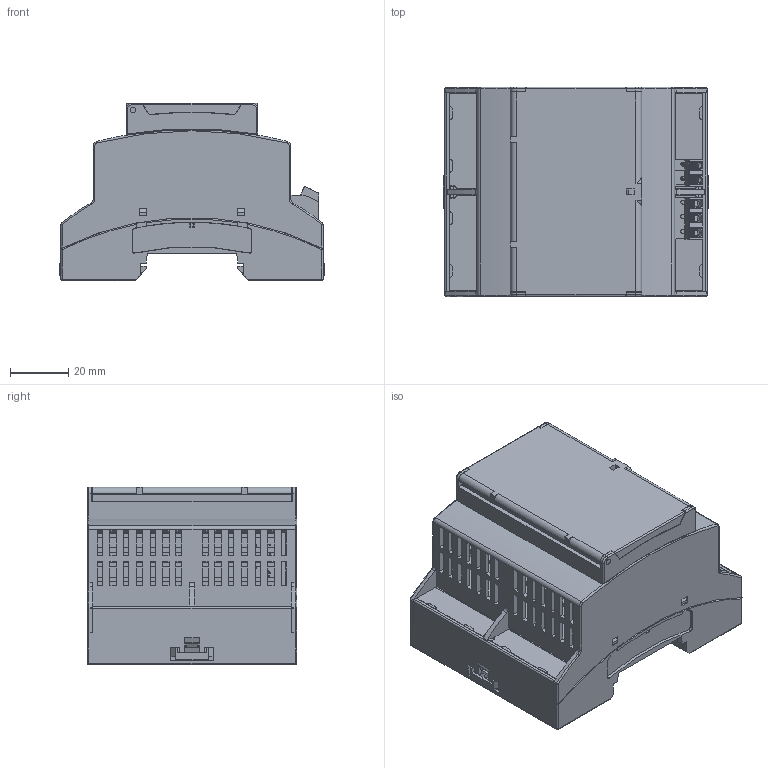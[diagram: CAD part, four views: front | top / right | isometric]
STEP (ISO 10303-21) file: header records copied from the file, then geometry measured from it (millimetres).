
FILE_DESCRIPTION(/* description */ (''),/* implementation_level */ '2;1');
FILE_NAME(/* name */ 'CNL70 V2.step',/* time_stamp */ '2023-09-22T14:33:50+02:00',/* author */ (''),/* organization */ (''),/* preprocessor_version */ 'ST-DEVELOPER v20',/* originating_system */ 'Autodesk Translation Framework v12.14.0.127',/* authorisation */ '');
FILE_SCHEMA (('AUTOMOTIVE_DESIGN { 1 0 10303 214 3 1 1 }'));
Products named in the file (11): CNL70; 2896267 v1; 2896267; 2896050 v2; 2896050; 2896128 v1; 2896128; 1752227 v1; 1752227; 1752214 v2; 1752214
Assembly tree (10 placements, depth 3):
  CNL70
    2896267 v1
      2896267
    2896050 v2
      2896050
    2896128 v1
      2896128
    1752227 v1
      1752227
    1752214 v2
      1752214
Bounding box: 91 x 71.6 x 60.7 mm (x, y, z)
Volume: 120500.8 mm3; surface area: 150307.4 mm2
Topology: 26 solids, 26 shells, 7348 faces, 20880 edges, 13864 vertices
Faces by surface type: plane 6524, cylinder 550, bspline 197, torus 37, cone 32, sphere 8
Full cylindrical faces by diameter (mm): 0.457 x1, 1 x36, 1.025 x4, 1.1 x3, 1.15 x4, 1.5 x5, 1.65 x4, 2 x4, 2.4 x6, 3 x14, 7 x1
Entity records: 247953 total; most frequent: CARTESIAN_POINT 54888, ORIENTED_EDGE 41744, DIRECTION 36549, EDGE_CURVE 20872, LINE 19033, VECTOR 19033, VERTEX_POINT 13864, AXIS2_PLACEMENT_3D 8758
